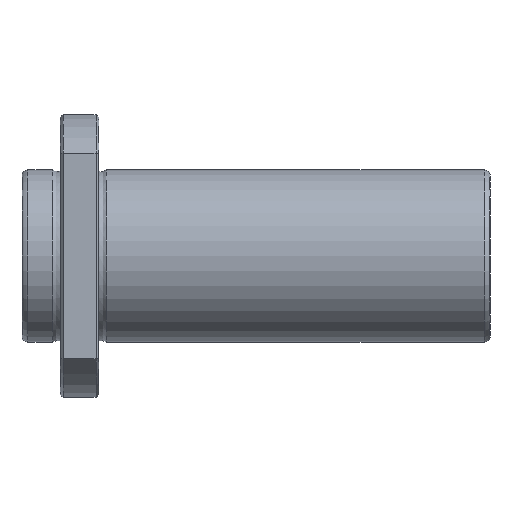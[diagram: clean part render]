
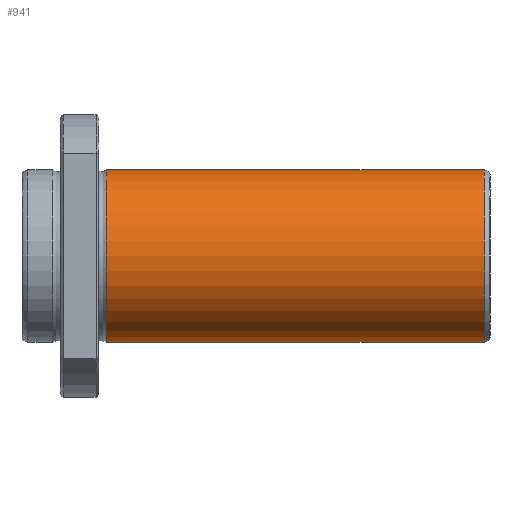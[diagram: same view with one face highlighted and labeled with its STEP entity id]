
A CAD part, front view. The second image highlights one B-rep face of the part: STEP entity #941.
In plain terms, the highlighted cylindrical face has radius 22.5 mm (diameter 45 mm), a full revolution.
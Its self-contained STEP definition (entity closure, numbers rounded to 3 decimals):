
#907=CARTESIAN_POINT('',(120.502,0.0,22.5));
#908=VERTEX_POINT('',#907);
#909=CARTESIAN_POINT('',(120.502,0.0,0.0));
#910=DIRECTION('',(-1.0,0.0,0.0));
#911=DIRECTION('',(0.0,0.0,1.0));
#912=AXIS2_PLACEMENT_3D('',#909,#910,#911);
#913=CIRCLE('',#912,22.5);
#914=EDGE_CURVE('',#908,#908,#913,.T.);
#922=CARTESIAN_POINT('',(71.262,0.0,0.0));
#923=DIRECTION('',(-1.0,0.0,0.0));
#924=DIRECTION('',(0.0,0.0,1.0));
#925=AXIS2_PLACEMENT_3D('',#922,#923,#924);
#926=CYLINDRICAL_SURFACE('',#925,22.5);
#927=CARTESIAN_POINT('',(22.023,0.0,22.5));
#928=VERTEX_POINT('',#927);
#929=CARTESIAN_POINT('',(22.023,0.0,0.0));
#930=DIRECTION('',(-1.0,0.0,0.0));
#931=DIRECTION('',(0.0,0.0,1.0));
#932=AXIS2_PLACEMENT_3D('',#929,#930,#931);
#933=CIRCLE('',#932,22.5);
#934=EDGE_CURVE('',#928,#928,#933,.T.);
#935=ORIENTED_EDGE('',*,*,#934,.F.);
#936=EDGE_LOOP('',(#935));
#937=FACE_OUTER_BOUND('',#936,.T.);
#938=ORIENTED_EDGE('',*,*,#914,.T.);
#939=EDGE_LOOP('',(#938));
#940=FACE_BOUND('',#939,.T.);
#941=ADVANCED_FACE('',(#937,#940),#926,.T.);
